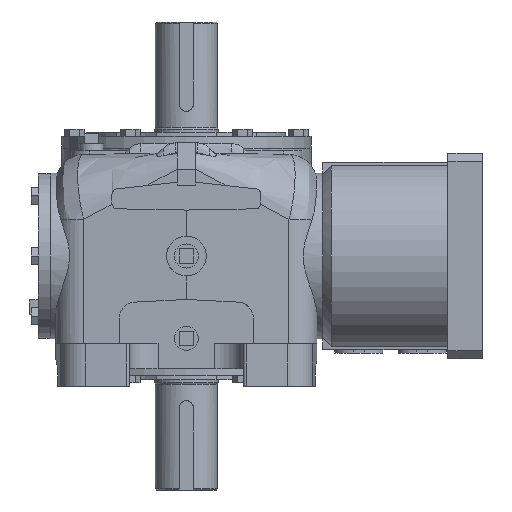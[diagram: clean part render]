
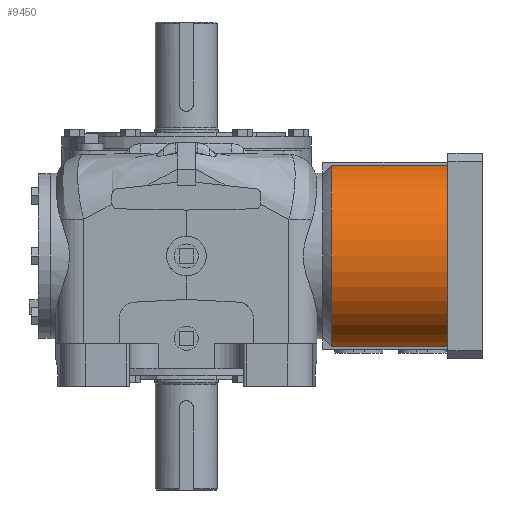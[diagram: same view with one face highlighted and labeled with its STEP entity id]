
A CAD part, front view. The second image highlights one B-rep face of the part: STEP entity #9450.
In plain terms, the highlighted cylindrical face has radius 104.775 mm (diameter 209.55 mm), a partial arc.
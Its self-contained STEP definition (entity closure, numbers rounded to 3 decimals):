
#187=CYLINDRICAL_SURFACE('',#11497,104.775);
#1273=LINE('',#21077,#2081);
#1277=LINE('',#21084,#2085);
#2081=VECTOR('',#13773,1000.);
#2085=VECTOR('',#13783,1000.);
#4547=ORIENTED_EDGE('',*,*,#5892,.F.);
#4548=ORIENTED_EDGE('',*,*,#5932,.F.);
#4549=ORIENTED_EDGE('',*,*,#5908,.T.);
#4550=ORIENTED_EDGE('',*,*,#5936,.T.);
#5892=EDGE_CURVE('',#6818,#6819,#7110,.T.);
#5908=EDGE_CURVE('',#6834,#6833,#7117,.T.);
#5932=EDGE_CURVE('',#6834,#6818,#1273,.T.);
#5936=EDGE_CURVE('',#6833,#6819,#1277,.T.);
#6818=VERTEX_POINT('',#20981);
#6819=VERTEX_POINT('',#20983);
#6833=VERTEX_POINT('',#21020);
#6834=VERTEX_POINT('',#21022);
#7110=CIRCLE('',#11463,104.775);
#7117=CIRCLE('',#11475,104.775);
#7795=EDGE_LOOP('',(#4547,#4548,#4549,#4550));
#8515=FACE_BOUND('',#7795,.T.);
#9450=ADVANCED_FACE('',(#8515),#187,.T.);
#11463=AXIS2_PLACEMENT_3D('',#20982,#13690,#13691);
#11475=AXIS2_PLACEMENT_3D('',#21021,#13722,#13723);
#11497=AXIS2_PLACEMENT_3D('',#21086,#13786,#13787);
#13690=DIRECTION('',(1.,0.,0.));
#13691=DIRECTION('',(0.,0.,-1.));
#13722=DIRECTION('',(1.,0.,0.));
#13723=DIRECTION('',(0.,0.,-1.));
#13773=DIRECTION('',(1.,0.,0.));
#13783=DIRECTION('',(1.,0.,0.));
#13786=DIRECTION('',(1.,0.,0.));
#13787=DIRECTION('',(0.,0.,-1.));
#20981=CARTESIAN_POINT('',(139.852,-24.875,101.779));
#20982=CARTESIAN_POINT('',(139.852,0.,0.));
#20983=CARTESIAN_POINT('',(139.852,-24.868,-101.781));
#21020=CARTESIAN_POINT('',(9.804,-24.868,-101.781));
#21021=CARTESIAN_POINT('',(9.804,0.,0.));
#21022=CARTESIAN_POINT('',(9.804,-24.875,101.779));
#21077=CARTESIAN_POINT('',(122.103,-24.875,101.779));
#21084=CARTESIAN_POINT('',(122.103,-24.868,-101.781));
#21086=CARTESIAN_POINT('',(122.103,0.,0.));
